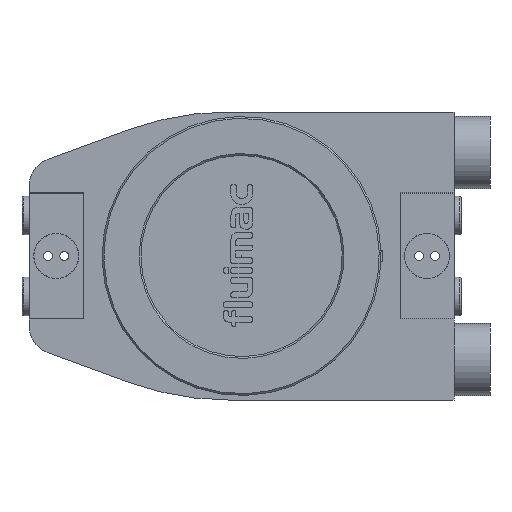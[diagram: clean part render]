
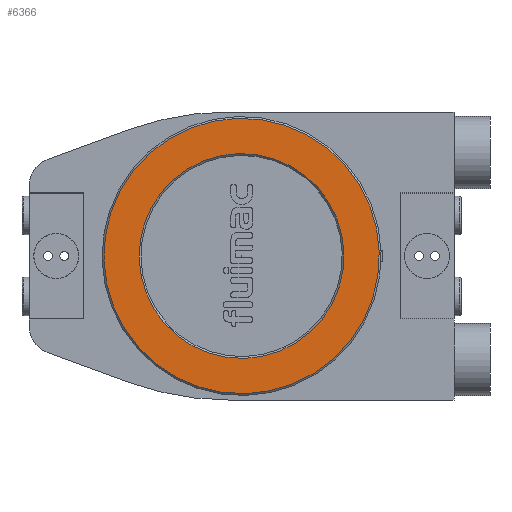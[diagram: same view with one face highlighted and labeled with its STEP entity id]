
A CAD part, left-side view. The second image highlights one B-rep face of the part: STEP entity #6366.
In plain terms, the highlighted planar face has unit normal (-1, 0, 0).
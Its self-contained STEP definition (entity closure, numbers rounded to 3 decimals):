
#497 = AXIS2_PLACEMENT_3D ( 'NONE', #19325, #15011, #22825 ) ;
#906 = VERTEX_POINT ( 'NONE', #23356 ) ;
#1082 = CARTESIAN_POINT ( 'NONE',  ( -113., -35.221, 44.689 ) ) ;
#1662 = CARTESIAN_POINT ( 'NONE',  ( -113., 35.221, -44.689 ) ) ;
#2104 = EDGE_LOOP ( 'NONE', ( #17222, #25319 ) ) ;
#2461 = AXIS2_PLACEMENT_3D ( 'NONE', #10232, #18058, #20891 ) ;
#3317 = DIRECTION ( 'NONE',  ( 0., -0.619, 0.785 ) ) ;
#3930 = EDGE_CURVE ( 'NONE', #30559, #906, #29969, .T. ) ;
#5507 = FACE_BOUND ( 'NONE', #2104, .T. ) ;
#5529 = EDGE_CURVE ( 'NONE', #31173, #16309, #10443, .T. ) ;
#6366 = ADVANCED_FACE ( 'NONE', ( #5507, #10980 ), #26965, .F. ) ;
#7775 = CARTESIAN_POINT ( 'NONE',  ( -113., 0., 0. ) ) ;
#7955 = DIRECTION ( 'NONE',  ( -1., 0., 0. ) ) ;
#8499 = AXIS2_PLACEMENT_3D ( 'NONE', #7775, #7955, #21088 ) ;
#9517 = AXIS2_PLACEMENT_3D ( 'NONE', #11439, #13941, #22456 ) ;
#10232 = CARTESIAN_POINT ( 'NONE',  ( -113., 0., 0. ) ) ;
#10443 = CIRCLE ( 'NONE', #2461, 56.9 ) ;
#10980 = FACE_OUTER_BOUND ( 'NONE', #17424, .T. ) ;
#11439 = CARTESIAN_POINT ( 'NONE',  ( -113., 0., 0. ) ) ;
#12395 = CIRCLE ( 'NONE', #497, 56.9 ) ;
#13941 = DIRECTION ( 'NONE',  ( -1., 0., 0. ) ) ;
#15011 = DIRECTION ( 'NONE',  ( 1., 0., 0. ) ) ;
#16158 = AXIS2_PLACEMENT_3D ( 'NONE', #32467, #19692, #3317 ) ;
#16309 = VERTEX_POINT ( 'NONE', #1082 ) ;
#17222 = ORIENTED_EDGE ( 'NONE', *, *, #5529, .T. ) ;
#17424 = EDGE_LOOP ( 'NONE', ( #19361, #18161 ) ) ;
#18058 = DIRECTION ( 'NONE',  ( 1., 0., 0. ) ) ;
#18161 = ORIENTED_EDGE ( 'NONE', *, *, #3930, .T. ) ;
#19325 = CARTESIAN_POINT ( 'NONE',  ( -113., 0., 0. ) ) ;
#19361 = ORIENTED_EDGE ( 'NONE', *, *, #33621, .T. ) ;
#19692 = DIRECTION ( 'NONE',  ( 1., 0., 0. ) ) ;
#20891 = DIRECTION ( 'NONE',  ( 0., -0.619, 0.785 ) ) ;
#21088 = DIRECTION ( 'NONE',  ( 0., -0.619, 0.785 ) ) ;
#22105 = CIRCLE ( 'NONE', #8499, 76.5 ) ;
#22456 = DIRECTION ( 'NONE',  ( 0., -0.619, 0.785 ) ) ;
#22825 = DIRECTION ( 'NONE',  ( 0., -0.619, 0.785 ) ) ;
#23356 = CARTESIAN_POINT ( 'NONE',  ( -113., -47.354, 60.082 ) ) ;
#25319 = ORIENTED_EDGE ( 'NONE', *, *, #32367, .T. ) ;
#26965 = PLANE ( 'NONE',  #16158 ) ;
#29969 = CIRCLE ( 'NONE', #9517, 76.5 ) ;
#30559 = VERTEX_POINT ( 'NONE', #33398 ) ;
#31173 = VERTEX_POINT ( 'NONE', #1662 ) ;
#32367 = EDGE_CURVE ( 'NONE', #16309, #31173, #12395, .T. ) ;
#32467 = CARTESIAN_POINT ( 'NONE',  ( -113., 47.973, -60.868 ) ) ;
#33398 = CARTESIAN_POINT ( 'NONE',  ( -113., 47.354, -60.082 ) ) ;
#33621 = EDGE_CURVE ( 'NONE', #906, #30559, #22105, .T. ) ;
